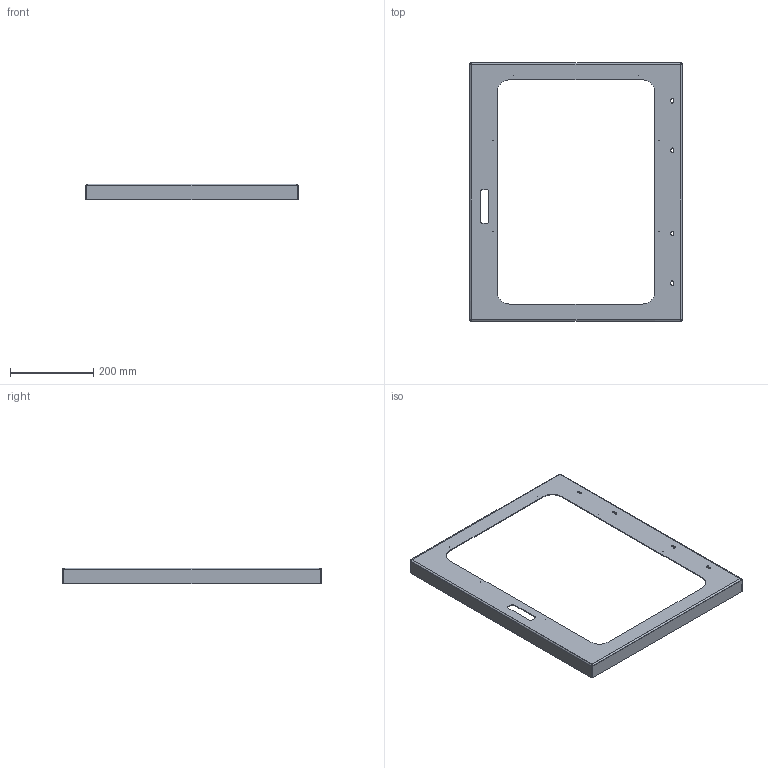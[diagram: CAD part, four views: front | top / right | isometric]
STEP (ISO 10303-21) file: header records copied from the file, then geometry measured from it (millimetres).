
FILE_DESCRIPTION (( 'STEP AP203' ), '1' );
FILE_NAME ('ORW-72.24.20.10.002 Êîðîá.STEP', '2025-10-13T13:18:56', ( 'Àíäðåé' ), ( '' ), 'SwSTEP 2.0', 'SolidWorks 2025', '' );
FILE_SCHEMA (( 'CONFIG_CONTROL_DESIGN' ));
Length unit declared in the file: millimetre
Products named in the file (1): ORW-72.24.20.10.002 Короб
Bounding box: 512 x 623 x 38 mm (x, y, z)
Volume: 380578.3 mm3; surface area: 389773.7 mm2
Topology: 1 solids, 1 shells, 100 faces, 262 edges, 164 vertices
Faces by surface type: plane 42, cylinder 34, bspline 24
Full cylindrical faces by diameter (mm): 0.5 x6
Entity records: 3371 total; most frequent: CARTESIAN_POINT 1009, ORIENTED_EDGE 512, DIRECTION 382, EDGE_CURVE 256, VERTEX_POINT 164, EDGE_LOOP 130, AXIS2_PLACEMENT_3D 129, LINE 124
